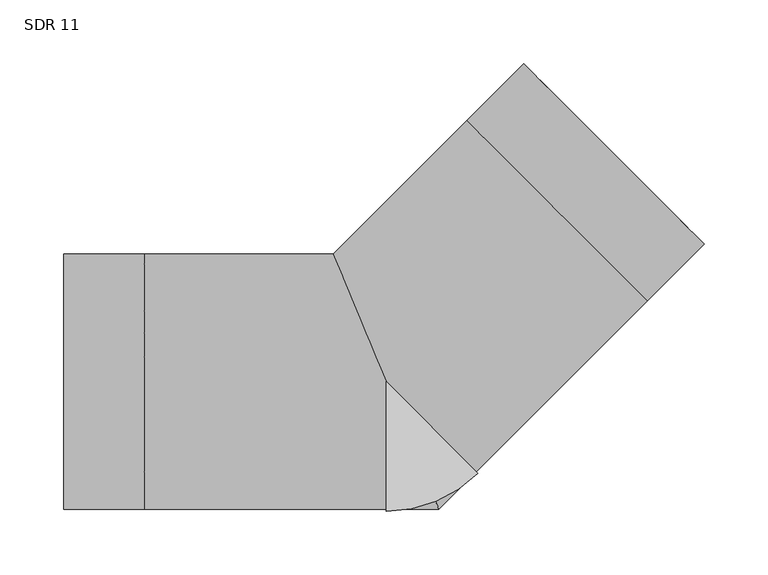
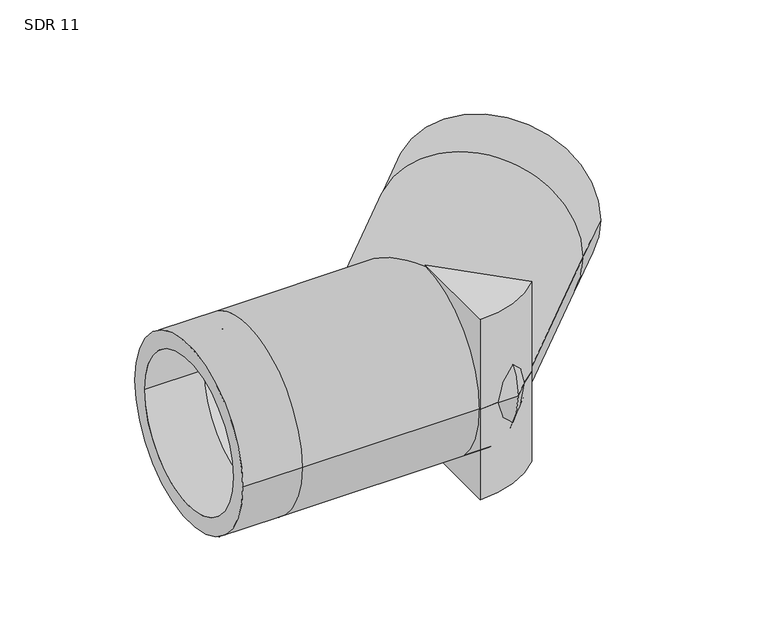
"""IFC4 building model written with IfcOpenShell, lengths in millimetres: pipe fitting geometry, Aquatherm - Elbow Blue BW Segmented : SDR 11."""

from ifc_helpers import new_model, si_unit, point, frame, origin, origin_with_axes, origin_2d, place, context, project, spatial, polyline, circle_curve, ellipse_curve, trimmed, segment, composite_curve, outline, extrude, source, transform, mapped, element, save
from ifc_brep_helpers import plane_surface, cylinder_surface, revolved_surface, advanced_brep


def sdr_11_409b6d94(model_context):
    return source(origin(), model_context, "Body", "SolidModel", [
        extrude(outline(composite_curve([segment(polyline([(0.0, -101.6), (0.0, 0.0), (71.842049, -71.842049)]), True, "CONTINUOUS"), segment(trimmed(circle_curve(origin_2d(), 101.6), [point((71.842049, -71.842049))], [point((0.0, -101.6))], False, "CARTESIAN"), True, "CONTINUOUS")], self_intersect=False)), frame((0.0, 0.0, -101.6), z_axis=(0.0, 0.0, 1.0), x_axis=(1.0, 0.0, 0.0)), (0.0, 0.0, 1.0), 101.6),
        extrude(outline(composite_curve([segment(trimmed(circle_curve(origin_2d(), 101.6), [point((71.842049, -71.842049))], [point((0.0, -101.6))], False, "CARTESIAN"), True, "CONTINUOUS"), segment(polyline([(0.0, -101.6), (0.0, 0.0), (71.842049, -71.842049)]), True, "CONTINUOUS")], self_intersect=False)), origin_with_axes(), (0.0, 0.0, 1.0), 101.6),
        advanced_brep(
        [(-252.476, -99.949, 0.0), (-252.476, 99.949, 0.0), (-252.476, -81.7764545, 0.0), (-252.476, 81.7764545, 0.0), (249.2021074, 107.852876, 0.0), (107.852876, 249.2021074, 0.0), (236.3521772, 120.7028061, 0.0), (120.7028061, 236.3521772, 0.0), (-189.357, -99.949, 0.0), (-189.357, 99.949, 0.0), (-189.357, -81.7764545, 0.0), (-189.357, 81.7764545, 0.0), (41.4002313, -99.949, 0.0), (-41.4002313, 99.949, 0.0), (33.8729166, -81.7764545, 0.0), (-33.8729166, 81.7764545, 0.0), (204.5702344, 63.2210031, 0.0), (63.2210031, 204.5702344, 0.0), (191.7203043, 76.0709332, 0.0), (76.0709332, 191.7203043, 0.0)],
        [
            (0, 1, circle_curve(frame((-252.476, 0.0, 0.0), z_axis=(-1.0, 0.0, 0.0), x_axis=(0.0, 1.0, 0.0)), 99.949)),
            (1, 0, circle_curve(frame((-252.476, 0.0, 0.0), z_axis=(-1.0, 0.0, 0.0), x_axis=(0.0, 1.0, 0.0)), 99.949)),
            (2, 3, circle_curve(frame((-252.476, 0.0, 0.0), z_axis=(1.0, 0.0, 0.0), x_axis=(0.0, 1.0, 0.0)), 81.7764545)),
            (3, 2, circle_curve(frame((-252.476, 0.0, 0.0), z_axis=(1.0, 0.0, 0.0), x_axis=(0.0, 1.0, 0.0)), 81.7764545)),
            (4, 5, circle_curve(frame((178.5274917, 178.5274917, 0.0), z_axis=(0.7071067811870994, 0.7071067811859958, 0.0), x_axis=(-0.7071067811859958, 0.7071067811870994, 0.0)), 99.949)),
            (5, 4, circle_curve(frame((178.5274917, 178.5274917, 0.0), z_axis=(0.7071067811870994, 0.7071067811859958, 0.0), x_axis=(-0.7071067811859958, 0.7071067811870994, 0.0)), 99.949)),
            (6, 7, circle_curve(frame((178.5274917, 178.5274917, 0.0), z_axis=(-0.7071067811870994, -0.7071067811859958, 0.0), x_axis=(-0.7071067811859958, 0.7071067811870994, 0.0)), 81.7764545)),
            (7, 6, circle_curve(frame((178.5274917, 178.5274917, 0.0), z_axis=(-0.7071067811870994, -0.7071067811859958, 0.0), x_axis=(-0.7071067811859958, 0.7071067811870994, 0.0)), 81.7764545)),
            (0, 8),
            (8, 9, circle_curve(frame((-189.357, 0.0, 0.0), z_axis=(-1.0, 0.0, 0.0), x_axis=(0.0, 1.0, 0.0)), 99.949)),
            (9, 1),
            (9, 8, circle_curve(frame((-189.357, 0.0, 0.0), z_axis=(-1.0, 0.0, 0.0), x_axis=(0.0, 1.0, 0.0)), 99.949)),
            (2, 10),
            (10, 11, circle_curve(frame((-189.357, 0.0, 0.0), z_axis=(1.0, 0.0, 0.0), x_axis=(0.0, 1.0, 0.0)), 81.7764545)),
            (11, 3),
            (11, 10, circle_curve(frame((-189.357, 0.0, 0.0), z_axis=(1.0, 0.0, 0.0), x_axis=(0.0, 1.0, 0.0)), 81.7764545)),
            (8, 12),
            (12, 13, ellipse_curve(frame((0.0, 0.0, 0.0), z_axis=(-0.9238795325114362, -0.38268343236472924, 0.0), x_axis=(-0.3826834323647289, 0.9238795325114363, 0.0)), 108.184018, 99.949)),
            (13, 9),
            (13, 12, ellipse_curve(frame((0.0, 0.0, 0.0), z_axis=(-0.9238795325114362, -0.38268343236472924, 0.0), x_axis=(-0.3826834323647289, 0.9238795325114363, 0.0)), 108.184018, 99.949)),
            (10, 14),
            (14, 15, ellipse_curve(frame((0.0, 0.0, 0.0), z_axis=(0.9238795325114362, 0.38268343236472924, 0.0), x_axis=(0.3826834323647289, -0.9238795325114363, 0.0)), 88.5141966, 81.7764545)),
            (15, 11),
            (15, 14, ellipse_curve(frame((0.0, 0.0, 0.0), z_axis=(0.9238795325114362, 0.38268343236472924, 0.0), x_axis=(0.3826834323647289, -0.9238795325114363, 0.0)), 88.5141966, 81.7764545)),
            (12, 16),
            (16, 17, circle_curve(frame((133.8956188, 133.8956188, 0.0), z_axis=(-0.7071067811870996, -0.7071067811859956, 0.0), x_axis=(-0.7071067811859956, 0.7071067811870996, 0.0)), 99.949)),
            (17, 13),
            (17, 16, circle_curve(frame((133.8956188, 133.8956188, 0.0), z_axis=(-0.7071067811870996, -0.7071067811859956, 0.0), x_axis=(-0.7071067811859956, 0.7071067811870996, 0.0)), 99.949)),
            (14, 18),
            (18, 19, circle_curve(frame((133.8956188, 133.8956188, 0.0), z_axis=(0.7071067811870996, 0.7071067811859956, 0.0), x_axis=(-0.7071067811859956, 0.7071067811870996, 0.0)), 81.7764545)),
            (19, 15),
            (19, 18, circle_curve(frame((133.8956188, 133.8956188, 0.0), z_axis=(0.7071067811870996, 0.7071067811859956, 0.0), x_axis=(-0.7071067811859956, 0.7071067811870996, 0.0)), 81.7764545)),
            (16, 4),
            (5, 17),
            (18, 6),
            (7, 19),
        ],
        [
            plane_surface(frame((-252.476, 0.0, 0.0), z_axis=(-1.0, 0.0, 0.0), x_axis=(0.0, 0.0, 1.0))),
            plane_surface(frame((178.5274917, 178.5274917, 0.0), z_axis=(0.7071067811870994, 0.7071067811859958, 0.0), x_axis=(0.0, 0.0, 1.0))),
            cylinder_surface(frame((-252.476, 0.0, 0.0), z_axis=(-1.0, 0.0, 0.0), x_axis=(0.0, 1.0, 0.0)), 99.949),
            revolved_surface(polyline([(-189.357, 81.7764545, 0.0), (-252.476, 81.7764545, 0.0)]), (-252.476, 0.0, 0.0), (1.0, 0.0, 0.0)),
            cylinder_surface(frame((-189.357, 0.0, 0.0), z_axis=(-1.0, 0.0, 0.0), x_axis=(0.0, 1.0, 0.0)), 99.949),
            revolved_surface(polyline([(33.872916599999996, 81.7764545, 0.0), (-189.357, 81.7764545, 0.0)]), (-189.357, 0.0, 0.0), (1.0, 0.0, 0.0)),
            cylinder_surface(frame((0.0, 0.0, 0.0), z_axis=(-0.7071067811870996, -0.7071067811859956, 0.0), x_axis=(-0.7071067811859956, 0.7071067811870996, 0.0)), 99.949),
            revolved_surface(polyline([(76.0709332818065, 191.7203043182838, 0.0), (-81.77645452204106, 33.87291651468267, 0.0)]), (0.0, 0.0, 0.0), (0.7071067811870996, 0.7071067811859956, 0.0)),
            cylinder_surface(frame((133.8956188, 133.8956188, 0.0), z_axis=(-0.7071067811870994, -0.7071067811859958, 0.0), x_axis=(-0.7071067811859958, 0.7071067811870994, 0.0)), 99.949),
            revolved_surface(polyline([(120.7028061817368, 236.3521772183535, 0.0), (76.07093323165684, 191.72030426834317, 0.0)]), (133.8956188, 133.8956188, 0.0), (0.7071067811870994, 0.7071067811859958, 0.0)),
        ],
        [
            (0, [[1, 2], [3, 4]]),
            (1, [[5, 6], [7, 8]]),
            (2, [[-1, 9, 10, 11]]),
            (2, [[-2, -11, 12, -9]]),
            (3, [[-3, 13, 14, 15]]),
            (3, [[-4, -15, 16, -13]]),
            (4, [[-10, 17, 18, 19]]),
            (4, [[-12, -19, 20, -17]]),
            (5, [[-14, 21, 22, 23]]),
            (5, [[-16, -23, 24, -21]]),
            (6, [[-18, 25, 26, 27]]),
            (6, [[-20, -27, 28, -25]]),
            (7, [[-22, 29, 30, 31]]),
            (7, [[-24, -31, 32, -29]]),
            (8, [[-26, 33, -6, 34]]),
            (8, [[-28, -34, -5, -33]]),
            (9, [[-30, 35, -8, 36]]),
            (9, [[-32, -36, -7, -35]]),
        ],
    ),
    ])


if __name__ == "__main__":
    model = new_model("IFC4")
    model_context = context("Model", 3, world=origin())
    ifc_project = project(units=[si_unit("LENGTHUNIT", "METRE", prefix="MILLI")], contexts=[model_context])
    site = spatial("IfcSite", under=ifc_project)
    building = spatial("IfcBuilding", under=site)
    placement = place(None, origin())
    sdr_11_shape = sdr_11_409b6d94(model_context)
    element("IfcPipeFitting", 1, ObjectType="Aquatherm - Elbow Blue BW Segmented : SDR 11", at=placement, inside=building, context=model_context, shape_type="MappedRepresentation", body=[
        mapped(sdr_11_shape, transform((0.0, 0.0, 0.0), x_axis=(1.0, 0.0, 0.0), y_axis=(0.0, 1.0, 0.0), z_axis=(0.0, 0.0, 1.0))),
    ])
    save(model, "model.ifc")
